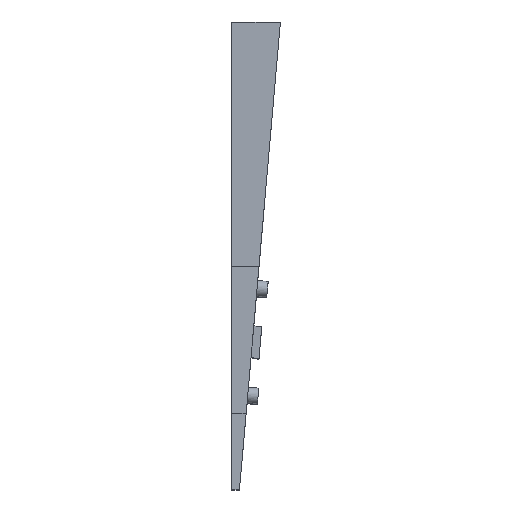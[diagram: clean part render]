
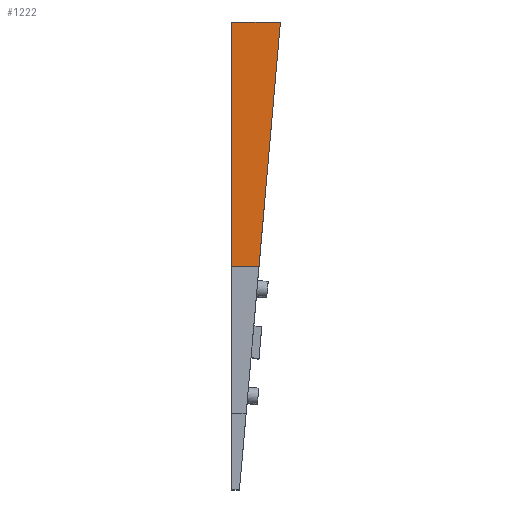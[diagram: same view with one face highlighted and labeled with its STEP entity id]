
A CAD part, top view. The second image highlights one B-rep face of the part: STEP entity #1222.
In plain terms, the highlighted planar face has unit normal (0, 0, 1).
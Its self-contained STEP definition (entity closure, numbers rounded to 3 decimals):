
#30 = EDGE_CURVE ( 'NONE', #930, #1009, #657, .T. ) ;
#37 = EDGE_CURVE ( 'NONE', #1009, #1016, #670, .T. ) ;
#123 = EDGE_CURVE ( 'NONE', #906, #930, #1628, .T. ) ;
#145 = EDGE_CURVE ( 'NONE', #906, #1016, #1794, .T. ) ;
#158 = AXIS2_PLACEMENT_3D ( 'NONE', #842, #810, #806 ) ;
#254 = ORIENTED_EDGE ( 'NONE', *, *, #123, .T. ) ;
#258 = ORIENTED_EDGE ( 'NONE', *, *, #30, .T. ) ;
#267 = ORIENTED_EDGE ( 'NONE', *, *, #37, .T. ) ;
#293 = ORIENTED_EDGE ( 'NONE', *, *, #145, .F. ) ;
#423 = CARTESIAN_POINT ( 'NONE',  ( 3.421, 9.117, 12.25 ) ) ;
#457 = PLANE ( 'NONE',  #158 ) ;
#572 = CARTESIAN_POINT ( 'NONE',  ( 6.1, 39.742, 12.25 ) ) ;
#613 = CARTESIAN_POINT ( 'NONE',  ( 0., 9.117, 12.25 ) ) ;
#620 = CARTESIAN_POINT ( 'NONE',  ( 0., 39.742, 12.25 ) ) ;
#657 = LINE ( 'NONE', #965, #702 ) ;
#670 = LINE ( 'NONE', #978, #695 ) ;
#695 = VECTOR ( 'NONE', #979, 1000. ) ;
#702 = VECTOR ( 'NONE', #943, 1000. ) ;
#806 = DIRECTION ( 'NONE',  ( 0., 1., 0. ) ) ;
#810 = DIRECTION ( 'NONE',  ( 0., 0., -1. ) ) ;
#842 = CARTESIAN_POINT ( 'NONE',  ( 6.1, 9.117, 12.25 ) ) ;
#906 = VERTEX_POINT ( 'NONE', #423 ) ;
#930 = VERTEX_POINT ( 'NONE', #572 ) ;
#943 = DIRECTION ( 'NONE',  ( -1., 0., 0. ) ) ;
#965 = CARTESIAN_POINT ( 'NONE',  ( 6.1, 39.742, 12.25 ) ) ;
#978 = CARTESIAN_POINT ( 'NONE',  ( 0., 9.117, 12.25 ) ) ;
#979 = DIRECTION ( 'NONE',  ( 0., -1., 0. ) ) ;
#1009 = VERTEX_POINT ( 'NONE', #620 ) ;
#1016 = VERTEX_POINT ( 'NONE', #613 ) ;
#1066 = DIRECTION ( 'NONE',  ( -1., 0., 0. ) ) ;
#1068 = CARTESIAN_POINT ( 'NONE',  ( 6.1, 9.117, 12.25 ) ) ;
#1113 = DIRECTION ( 'NONE',  ( 0.087, 0.996, 0. ) ) ;
#1123 = CARTESIAN_POINT ( 'NONE',  ( 3.441, 9.349, 12.25 ) ) ;
#1222 = ADVANCED_FACE ( 'NONE', ( #1666 ), #457, .F. ) ;
#1390 = EDGE_LOOP ( 'NONE', ( #293, #254, #258, #267 ) ) ;
#1628 = LINE ( 'NONE', #1123, #1638 ) ;
#1638 = VECTOR ( 'NONE', #1113, 1000. ) ;
#1666 = FACE_OUTER_BOUND ( 'NONE', #1390, .T. ) ;
#1698 = VECTOR ( 'NONE', #1066, 1000. ) ;
#1794 = LINE ( 'NONE', #1068, #1698 ) ;
